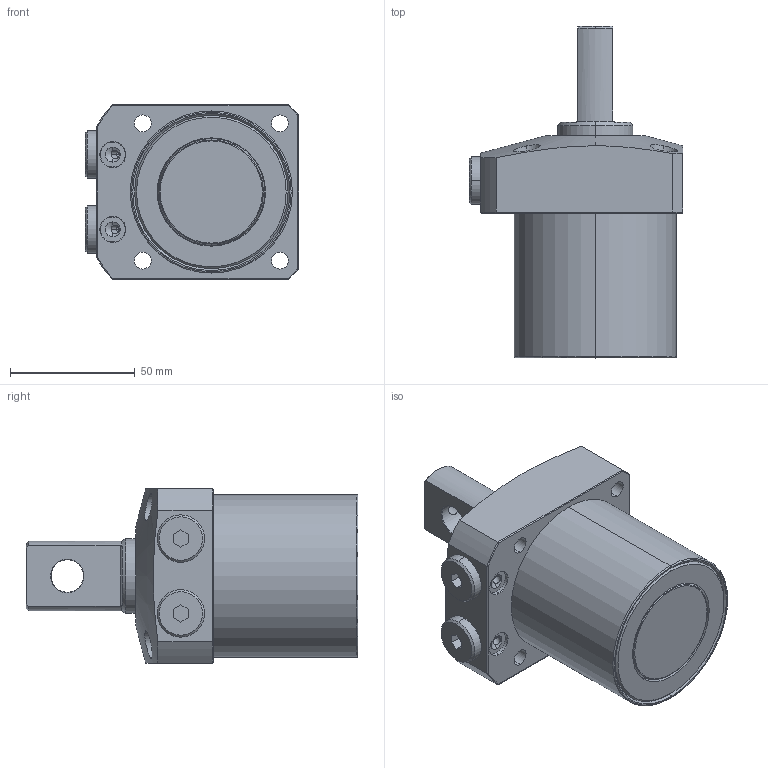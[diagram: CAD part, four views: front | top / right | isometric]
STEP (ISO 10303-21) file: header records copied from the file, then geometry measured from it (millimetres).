
FILE_DESCRIPTION (( 'STEP AP203' ), '1' );
FILE_NAME ('20500-CL-P.step', '2019-06-24T03:11:50', ( '微软用户' ), ( '微软中国' ), 'SwSTEP 2.0', 'SolidWorks 2014', '' );
FILE_SCHEMA (( 'CONFIG_CONTROL_DESIGN' ));
Length unit declared in the file: millimetre
Products named in the file (5): 20500-CL-P; 20500-C-P-1^20500-CL-P; 20500-C-P-2^20500-CL-P; 20500-C-P-3^20500-CL-P; 20500-C-P-4^20500-CL-P
Assembly tree (5 placements, depth 2):
  20500-CL-P
    20500-C-P-1^20500-CL-P
    20500-C-P-2^20500-CL-P
    20500-C-P-3^20500-CL-P
    20500-C-P-4^20500-CL-P  x2
Bounding box: 85.5 x 133 x 70 mm (x, y, z)
Volume: 373602.8 mm3; surface area: 48033.8 mm2
Topology: 5 solids, 5 shells, 165 faces, 371 edges, 231 vertices
Faces by surface type: cylinder 65, plane 51, cone 37, torus 12
Entity records: 5484 total; most frequent: CARTESIAN_POINT 1481, DIRECTION 762, ORIENTED_EDGE 686, EDGE_CURVE 343, AXIS2_PLACEMENT_3D 313, VERTEX_POINT 213, EDGE_LOOP 182, CIRCLE 153
